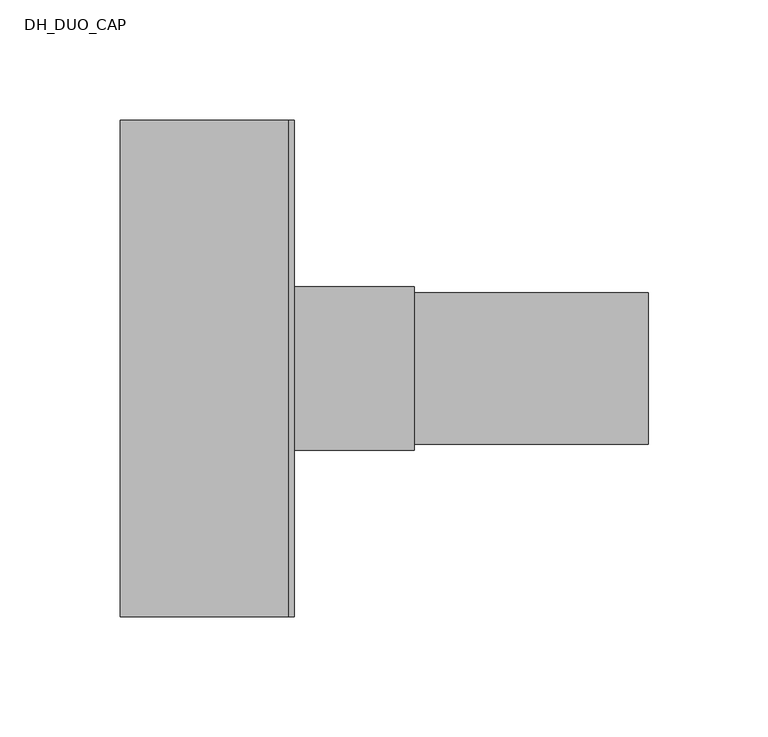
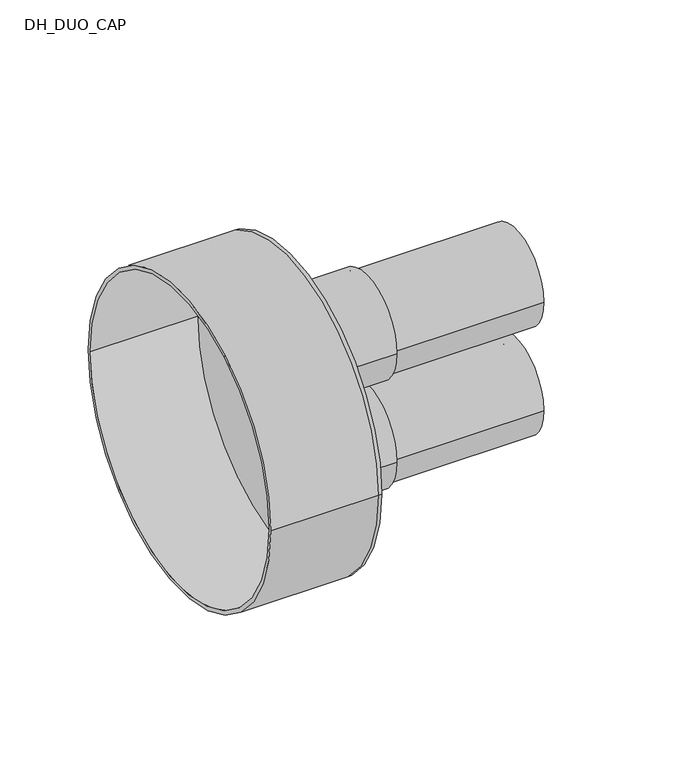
"""IFC4 building model written with IfcOpenShell, lengths in millimetres: pipe fitting geometry, DH_DUO_CAP : RAUTHERMEX DUO + 7.4 Heating - Rubber Cap."""

import ifcopenshell
import ifcopenshell.guid

model = None  # the IFC model being written
_history = None  # IfcOwnerHistory: only IFC2X3 demands one
_inside = {}  # id of a spatial element -> (the spatial element, [elements in it])
_under = {}  # id of a project, library or spatial element -> (it, [spatial elements below it])
_declared = {}  # id of a project -> (the project, [libraries it declares])
_typed = {}  # id of a type object -> (the type object, [elements of that type])
_made_of = {}  # id of a material, layer set ... -> (it, [elements and type objects made of it])


def new_model(schema):
    """Start an empty IFC model of exactly this schema.

    Asked for "IFC4X3", IfcOpenShell would pick the latest addendum, in which some entities
    have other attributes; the version numbers below select the first issue.
    IFC2X3 requires an IfcOwnerHistory on every rooted entity: one is made here for all.
    """
    global model, _history
    if schema == "IFC4X3":
        model = ifcopenshell.file(schema_version=(4, 3, 0, 0))
    else:
        model = ifcopenshell.file(schema=schema)
    _inside.clear()
    _under.clear()
    _declared.clear()
    _typed.clear()
    _made_of.clear()
    _history = None
    if model.schema == "IFC2X3":
        org = make("IfcOrganization", Name="unknown")
        user = make(
            "IfcPersonAndOrganization",
            ThePerson=make("IfcPerson", FamilyName="unknown"),
            TheOrganization=org,
        )
        app = make(
            "IfcApplication",
            ApplicationDeveloper=org,
            Version="unknown",
            ApplicationFullName="unknown",
            ApplicationIdentifier="unknown",
        )
        _history = make(
            "IfcOwnerHistory",
            OwningUser=user,
            OwningApplication=app,
            ChangeAction="ADDED",
            CreationDate=0,
        )
    return model


def make(cls, **values):
    """One entity of the class cls with the attributes given. An attribute that is None is left unset."""
    return model.create_entity(
        cls, **{name: value for name, value in values.items() if value is not None}
    )


def rooted(cls, **values):
    """An entity with a GlobalId (a new one), such as an element, a storey or a relation."""
    return make(cls, GlobalId=ifcopenshell.guid.new(), OwnerHistory=_history, **values)


def si_unit(unit_type, name, prefix=None):
    """IfcSIUnit, for example si_unit("LENGTHUNIT", "METRE", prefix="MILLI")."""
    return make("IfcSIUnit", UnitType=unit_type, Prefix=prefix, Name=name)


def assignment(units):
    """IfcUnitAssignment: the units of a project."""
    return None if units is None else make("IfcUnitAssignment", Units=units)


def point(xyz):
    """IfcCartesianPoint."""
    return None if xyz is None else make("IfcCartesianPoint", Coordinates=xyz)


def direction(xyz):
    """IfcDirection."""
    return None if xyz is None else make("IfcDirection", DirectionRatios=xyz)


def frame(location, z_axis=None, x_axis=None):
    """IfcAxis2Placement3D, a coordinate frame: its origin and axes. An axis left out is left unset."""
    return make(
        "IfcAxis2Placement3D",
        Location=point(location),
        Axis=direction(z_axis),
        RefDirection=direction(x_axis),
    )


def frame_2d(location, x_axis=None):
    """IfcAxis2Placement2D, a coordinate frame in the plane: its origin and x axis."""
    return make(
        "IfcAxis2Placement2D", Location=point(location), RefDirection=direction(x_axis)
    )


def origin():
    """The frame at (0, 0, 0) with its axes left unset."""
    return frame((0.0, 0.0, 0.0))


def place(relative_to, where):
    """IfcLocalPlacement: puts the frame where relative to a parent placement (None: the world)."""
    return make(
        "IfcLocalPlacement", PlacementRelTo=relative_to, RelativePlacement=where
    )


def context(
    kind, dimensions, precision=None, world=None, true_north=None, identifier=None
):
    """IfcGeometricRepresentationContext, for example the 3D "Model" context."""
    return make(
        "IfcGeometricRepresentationContext",
        ContextIdentifier=identifier,
        ContextType=kind,
        CoordinateSpaceDimension=dimensions,
        Precision=precision,
        WorldCoordinateSystem=world,
        TrueNorth=true_north,
    )


def project(units=None, contexts=None):
    """IfcProject with its units and contexts."""
    return rooted(
        "IfcProject",
        Name="project",
        RepresentationContexts=contexts,
        UnitsInContext=assignment(units),
    )


def spatial(cls, under=None, at=None, **own):
    """A site, building, storey or space (cls), placed at a placement, below another one or the project."""
    s = rooted(cls, ObjectPlacement=at, **own)
    if under is not None:
        _under.setdefault(under.id(), (under, []))[1].append(s)
    return s


def polyline(points):
    """IfcPolyline through the points."""
    return make("IfcPolyline", Points=[point(p) for p in points])


def circle_curve(where, radius):
    """IfcCircle in the frame where."""
    return make("IfcCircle", Position=where, Radius=radius)


def trimmed(basis, trim1, trim2, sense, master):
    """IfcTrimmedCurve: the piece of a basis curve between two trims."""
    return make(
        "IfcTrimmedCurve",
        BasisCurve=basis,
        Trim1=trim1,
        Trim2=trim2,
        SenseAgreement=sense,
        MasterRepresentation=master,
    )


def segment(curve, same_sense, transition):
    """IfcCompositeCurveSegment."""
    return make(
        "IfcCompositeCurveSegment",
        Transition=transition,
        SameSense=same_sense,
        ParentCurve=curve,
    )


def composite_curve(segments, self_intersect=None):
    """IfcCompositeCurve: segments joined end to end."""
    return make("IfcCompositeCurve", Segments=segments, SelfIntersect=self_intersect)


def outline(outer, holes=None, kind="AREA"):
    """IfcArbitraryClosedProfileDef: a profile drawn as a closed curve; with holes, ...WithVoids."""
    if holes is None:
        return make("IfcArbitraryClosedProfileDef", ProfileType=kind, OuterCurve=outer)
    return make(
        "IfcArbitraryProfileDefWithVoids",
        ProfileType=kind,
        OuterCurve=outer,
        InnerCurves=holes,
    )


def extrude(swept, where, along, depth):
    """IfcExtrudedAreaSolid: the profile swept, set in the frame where, extruded along a direction by depth."""
    return make(
        "IfcExtrudedAreaSolid",
        SweptArea=swept,
        Position=where,
        ExtrudedDirection=direction(along),
        Depth=depth,
    )


def shape(context_of_items, identifier, shape_type, items):
    """IfcShapeRepresentation: the items that make up one representation, for example the "Body"."""
    return make(
        "IfcShapeRepresentation",
        ContextOfItems=context_of_items,
        RepresentationIdentifier=identifier,
        RepresentationType=shape_type,
        Items=items,
    )


def source(mapping_origin, context_of_items, identifier, shape_type, items):
    """IfcRepresentationMap: a shape defined once, which mapped items show again and again."""
    return make(
        "IfcRepresentationMap",
        MappingOrigin=mapping_origin,
        MappedRepresentation=shape(context_of_items, identifier, shape_type, items),
    )


def transform(
    local_origin,
    x_axis=None,
    y_axis=None,
    z_axis=None,
    scale=None,
    scale2=None,
    scale3=None,
    uniform=True,
):
    """IfcCartesianTransformationOperator3D, or its non-uniform kind. x_axis, y_axis, z_axis: its Axis1, 2, 3."""
    if uniform:
        return make(
            "IfcCartesianTransformationOperator3D",
            Axis1=direction(x_axis),
            Axis2=direction(y_axis),
            LocalOrigin=point(local_origin),
            Scale=scale,
            Axis3=direction(z_axis),
        )
    return make(
        "IfcCartesianTransformationOperator3DnonUniform",
        Axis1=direction(x_axis),
        Axis2=direction(y_axis),
        LocalOrigin=point(local_origin),
        Scale=scale,
        Axis3=direction(z_axis),
        Scale2=scale2,
        Scale3=scale3,
    )


def mapped(mapping_source, mapping_target):
    """IfcMappedItem: shows the shape of a source again, moved by a transform."""
    return make(
        "IfcMappedItem", MappingSource=mapping_source, MappingTarget=mapping_target
    )


def made_of(thing, what):
    """Note that an element or type object is made of a material, layer set ...; save() writes the relation."""
    if what is not None:
        _made_of.setdefault(what.id(), (what, []))[1].append(thing)
    return thing


def element(
    cls,
    number,
    at=None,
    inside=None,
    cuts=None,
    type_object=None,
    material=None,
    context=None,
    identifier="Body",
    shape_type=None,
    held_by="IfcProductDefinitionShape",
    body=None,
    shapes=None,
    **own,
):
    """One element of the class cls, such as IfcWall. Its Tag is "e" and its number.

    at: its placement. inside: the storey or other place that contains it. cuts: it is an
    opening in that element (IfcRelVoidsElement). A single representation is given by context,
    identifier, shape_type and body (its items); several are given by shapes. held_by: the class
    of the entity that holds the representations. save() writes the other relations.
    """
    e = rooted(cls, Tag="e%d" % number, ObjectPlacement=at, **own)
    if body is not None:
        shapes = [shape(context, identifier, shape_type, body)]
    if shapes is not None:
        e.Representation = make(held_by, Representations=shapes)
    if inside is not None:
        _inside.setdefault(inside.id(), (inside, []))[1].append(e)
    if cuts is not None:
        rooted(
            "IfcRelVoidsElement", RelatingBuildingElement=cuts, RelatedOpeningElement=e
        )
    if type_object is not None:
        _typed.setdefault(type_object.id(), (type_object, []))[1].append(e)
    return made_of(e, material)


def aggregate(whole, parts):
    """IfcRelAggregates: a whole, such as a stair, and the parts it consists of."""
    return rooted("IfcRelAggregates", RelatingObject=whole, RelatedObjects=parts)


def save(model, path):
    """Write the relations noted so far, then the file.

    IfcRelAggregates (storeys below a building ...), IfcRelContainedInSpatialStructure (elements
    in a storey), IfcRelDefinesByType, IfcRelAssociatesMaterial and IfcRelDeclares: one each for
    every whole, place, type object, material and project.
    """
    for whole, parts in _under.values():
        aggregate(whole, parts)
    for where, things in _inside.values():
        rooted(
            "IfcRelContainedInSpatialStructure",
            RelatedElements=things,
            RelatingStructure=where,
        )
    for kind, things in _typed.values():
        rooted("IfcRelDefinesByType", RelatedObjects=things, RelatingType=kind)
    for what, things in _made_of.values():
        rooted("IfcRelAssociatesMaterial", RelatedObjects=things, RelatingMaterial=what)
    for by, libraries in _declared.values():
        rooted("IfcRelDeclares", RelatingContext=by, RelatedDefinitions=libraries)
    model.write(path)


def plane_surface(at):
    """IfcPlane: the flat surface through the origin of the frame at, square to its z axis."""
    return make("IfcPlane", Position=at)


def cylinder_surface(at, radius):
    """IfcCylindricalSurface: all points at the distance radius from the z axis of the frame at."""
    return make("IfcCylindricalSurface", Position=at, Radius=radius)


def revolved_surface(curve, axis_point, axis_direction):
    """IfcSurfaceOfRevolution: the curve turned about the line through axis_point along axis_direction."""
    return make(
        "IfcSurfaceOfRevolution",
        SweptCurve=make("IfcArbitraryOpenProfileDef", ProfileType="CURVE", Curve=curve),
        AxisPosition=make("IfcAxis1Placement", Location=point(axis_point), Axis=direction(axis_direction)),
    )


def advanced_brep(points, edges, surfaces, faces):
    """IfcAdvancedBrep: a solid bounded by faces that lie on surfaces and meet in shared edges.

    An edge is (start, end): straight between two places in points (the first is 0);
    or (start, end, curve); or (start, end, curve, False) where it runs against its curve.
    A face is (place in surfaces, loops), or (place, loops, False) where it looks against
    its surface's normal. A loop lists edges by number (the first is 1), with a minus sign
    where the edge is run from its end to its start. The first loop is the outer one.
    """
    corners = [point(p) for p in points]
    vertices = [make("IfcVertexPoint", VertexGeometry=c) for c in corners]
    made = []
    for start, end, *more in edges:
        made.append(
            make(
                "IfcEdgeCurve",
                EdgeStart=vertices[start],
                EdgeEnd=vertices[end],
                EdgeGeometry=more[0] if more else make("IfcPolyline", Points=[corners[start], corners[end]]),
                SameSense=more[1] if len(more) > 1 else True,
            )
        )
    hull = []
    for where, loops, *sense in faces:
        bounds = []
        for j, loop in enumerate(loops):
            ring = [make("IfcOrientedEdge", EdgeElement=made[abs(k) - 1], Orientation=k > 0) for k in loop]
            bounds.append(
                make(
                    "IfcFaceOuterBound" if j == 0 else "IfcFaceBound",
                    Bound=make("IfcEdgeLoop", EdgeList=ring),
                    Orientation=True,
                )
            )
        hull.append(make("IfcAdvancedFace", Bounds=bounds, FaceSurface=surfaces[where], SameSense=sense[0] if sense else True))
    return make("IfcAdvancedBrep", Outer=make("IfcClosedShell", CfsFaces=hull))


def dh_duo_cap_f27f4780(model_context):
    return source(origin(), model_context, "Body", "SolidModel", [
        extrude(outline(composite_curve([segment(trimmed(circle_curve(frame_2d((0.0, -37.5)), 31.5), [point((-31.5, -37.5))], [point((31.5, -37.5))], False, "CARTESIAN"), True, "CONTINUOUS"), segment(trimmed(circle_curve(frame_2d((0.0, -37.5)), 31.5), [point((31.5, -37.5))], [point((-31.5, -37.5))], False, "CARTESIAN"), True, "CONTINUOUS")], self_intersect=False), holes=[composite_curve([segment(trimmed(circle_curve(frame_2d((0.0, -37.5)), 22.9), [point((-22.9, -37.5))], [point((22.9, -37.5))], True, "CARTESIAN"), True, "CONTINUOUS"), segment(trimmed(circle_curve(frame_2d((0.0, -37.5)), 22.9), [point((22.9, -37.5))], [point((-22.9, -37.5))], True, "CARTESIAN"), True, "CONTINUOUS")], self_intersect=False)]), frame((0.0, 0.0, 0.0), z_axis=(1.0, 0.0, 0.0), x_axis=(0.0, 1.0, 0.0)), (0.0, 0.0, 1.0), 150.0),
        extrude(outline(composite_curve([segment(trimmed(circle_curve(frame_2d((0.0, 37.5)), 31.5), [point((-31.5, 37.5))], [point((31.5, 37.5))], False, "CARTESIAN"), True, "CONTINUOUS"), segment(trimmed(circle_curve(frame_2d((0.0, 37.5)), 31.5), [point((31.5, 37.5))], [point((-31.5, 37.5))], False, "CARTESIAN"), True, "CONTINUOUS")], self_intersect=False), holes=[composite_curve([segment(trimmed(circle_curve(frame_2d((0.0, 37.5)), 22.9), [point((-22.9, 37.5))], [point((22.9, 37.5))], True, "CARTESIAN"), True, "CONTINUOUS"), segment(trimmed(circle_curve(frame_2d((0.0, 37.5)), 22.9), [point((22.9, 37.5))], [point((-22.9, 37.5))], True, "CARTESIAN"), True, "CONTINUOUS")], self_intersect=False)]), frame((0.0, 0.0, 0.0), z_axis=(1.0, 0.0, 0.0), x_axis=(0.0, 1.0, 0.0)), (0.0, 0.0, 1.0), 150.0),
        advanced_brep(
        [(-70.0, -103.5, 0.0), (-70.0, 103.5, 0.0), (-70.0, -101.0, 0.0), (-70.0, 101.0, 0.0), (0.0, -101.0, 0.0), (0.0, 101.0, 0.0), (0.0, -103.5, 0.0), (0.0, 103.5, 0.0), (0.0, 31.5, 37.5), (0.0, -31.5, 37.5), (0.0, 31.5, -37.5), (0.0, -31.5, -37.5), (2.5, -103.5, 0.0), (2.5, 103.5, 0.0), (2.5, -31.5, 37.5), (2.5, 31.5, 37.5), (2.5, -31.5, -37.5), (2.5, 31.5, -37.5)],
        [
            (0, 1, circle_curve(frame((-70.0, 0.0, 0.0), z_axis=(-1.0, 0.0, 0.0), x_axis=(0.0, 1.0, 0.0)), 103.5)),
            (1, 0, circle_curve(frame((-70.0, 0.0, 0.0), z_axis=(-1.0, 0.0, 0.0), x_axis=(0.0, 1.0, 0.0)), 103.5)),
            (2, 3, circle_curve(frame((-70.0, 0.0, 0.0), z_axis=(1.0, 0.0, 0.0), x_axis=(0.0, 1.0, 0.0)), 101.0)),
            (3, 2, circle_curve(frame((-70.0, 0.0, 0.0), z_axis=(1.0, 0.0, 0.0), x_axis=(0.0, 1.0, 0.0)), 101.0)),
            (2, 4),
            (4, 5, circle_curve(frame((0.0, 0.0, 0.0), z_axis=(1.0, 0.0, 0.0), x_axis=(0.0, 1.0, 0.0)), 101.0)),
            (5, 3),
            (5, 4, circle_curve(frame((0.0, 0.0, 0.0), z_axis=(1.0, 0.0, 0.0), x_axis=(0.0, 1.0, 0.0)), 101.0)),
            (0, 6),
            (6, 7, circle_curve(frame((0.0, 0.0, 0.0), z_axis=(-1.0, 0.0, 0.0), x_axis=(0.0, 1.0, 0.0)), 103.5)),
            (7, 1),
            (7, 6, circle_curve(frame((0.0, 0.0, 0.0), z_axis=(-1.0, 0.0, 0.0), x_axis=(0.0, 1.0, 0.0)), 103.5)),
            (8, 9, circle_curve(frame((0.0, 0.0, 37.5), z_axis=(1.0, 0.0, 0.0), x_axis=(0.0, 1.0, 0.0)), 31.5)),
            (9, 8, circle_curve(frame((0.0, 0.0, 37.5), z_axis=(1.0, 0.0, 0.0), x_axis=(0.0, 1.0, 0.0)), 31.5)),
            (10, 11, circle_curve(frame((0.0, 0.0, -37.5), z_axis=(1.0, 0.0, 0.0), x_axis=(0.0, 1.0, 0.0)), 31.5)),
            (11, 10, circle_curve(frame((0.0, 0.0, -37.5), z_axis=(1.0, 0.0, 0.0), x_axis=(0.0, 1.0, 0.0)), 31.5)),
            (12, 13, circle_curve(frame((2.5, 0.0, 0.0), z_axis=(1.0, 0.0, 0.0), x_axis=(0.0, 1.0, 0.0)), 103.5)),
            (13, 12, circle_curve(frame((2.5, 0.0, 0.0), z_axis=(1.0, 0.0, 0.0), x_axis=(0.0, 1.0, 0.0)), 103.5)),
            (14, 15, circle_curve(frame((2.5, 0.0, 37.5), z_axis=(-1.0, 0.0, 0.0), x_axis=(0.0, 1.0, 0.0)), 31.5)),
            (15, 14, circle_curve(frame((2.5, 0.0, 37.5), z_axis=(-1.0, 0.0, 0.0), x_axis=(0.0, 1.0, 0.0)), 31.5)),
            (16, 17, circle_curve(frame((2.5, 0.0, -37.5), z_axis=(-1.0, 0.0, 0.0), x_axis=(0.0, 1.0, 0.0)), 31.5)),
            (17, 16, circle_curve(frame((2.5, 0.0, -37.5), z_axis=(-1.0, 0.0, 0.0), x_axis=(0.0, 1.0, 0.0)), 31.5)),
            (13, 7),
            (6, 12),
            (8, 15),
            (14, 9),
            (10, 17),
            (16, 11),
        ],
        [
            plane_surface(frame((-70.0, 0.0, 0.0), z_axis=(-1.0, 0.0, 0.0), x_axis=(0.0, 0.0, 1.0))),
            revolved_surface(polyline([(0.0, 101.0, 0.0), (-70.0, 101.0, 0.0)]), (-70.0, 0.0, 0.0), (1.0, 0.0, 0.0)),
            cylinder_surface(frame((-70.0, 0.0, 0.0), z_axis=(-1.0, 0.0, 0.0), x_axis=(0.0, 1.0, 0.0)), 103.5),
            plane_surface(frame((0.0, 0.0, 0.0), z_axis=(-1.0, 0.0, 0.0), x_axis=(0.0, 0.0, 1.0))),
            plane_surface(frame((2.5, 0.0, 0.0), z_axis=(1.0, 0.0, 0.0), x_axis=(0.0, 0.0, 1.0))),
            cylinder_surface(frame((0.0, 0.0, 0.0), z_axis=(-1.0, 0.0, 0.0), x_axis=(0.0, 1.0, 0.0)), 103.5),
            revolved_surface(polyline([(0.0, 31.5, 37.5), (2.5, 31.5, 37.5)]), (0.0, 0.0, 37.5), (-1.0, 0.0, 0.0)),
            revolved_surface(polyline([(0.0, 31.5, -37.5), (2.5, 31.5, -37.5)]), (0.0, 0.0, -37.5), (-1.0, 0.0, 0.0)),
        ],
        [
            (0, [[1, 2], [3, 4]]),
            (1, [[-3, 5, 6, 7]]),
            (1, [[-4, -7, 8, -5]]),
            (2, [[-1, 9, 10, 11]]),
            (2, [[-2, -11, 12, -9]]),
            (3, [[-6, -8], [13, 14], [15, 16]]),
            (4, [[17, 18], [19, 20], [21, 22]]),
            (5, [[-18, 23, -10, 24]]),
            (5, [[-17, -24, -12, -23]]),
            (6, [[25, -19, 26, -13]]),
            (6, [[-25, -14, -26, -20]]),
            (7, [[27, -21, 28, -15]]),
            (7, [[-27, -16, -28, -22]]),
        ],
    ),
        extrude(outline(composite_curve([segment(trimmed(circle_curve(frame_2d((0.0, -37.5)), 34.0), [point((-34.0, -37.5))], [point((34.0, -37.5))], False, "CARTESIAN"), True, "CONTINUOUS"), segment(trimmed(circle_curve(frame_2d((0.0, -37.5)), 34.0), [point((34.0, -37.5))], [point((-34.0, -37.5))], False, "CARTESIAN"), True, "CONTINUOUS")], self_intersect=False), holes=[composite_curve([segment(trimmed(circle_curve(frame_2d((0.0, -37.5)), 31.5), [point((-31.5, -37.5))], [point((31.5, -37.5))], True, "CARTESIAN"), True, "CONTINUOUS"), segment(trimmed(circle_curve(frame_2d((0.0, -37.5)), 31.5), [point((31.5, -37.5))], [point((-31.5, -37.5))], True, "CARTESIAN"), True, "CONTINUOUS")], self_intersect=False)]), frame((2.5, 0.0, 0.0), z_axis=(1.0, 0.0, 0.0), x_axis=(0.0, 1.0, 0.0)), (0.0, 0.0, 1.0), 50.0),
        extrude(outline(composite_curve([segment(trimmed(circle_curve(frame_2d((0.0, 37.5)), 34.0), [point((-34.0, 37.5))], [point((34.0, 37.5))], False, "CARTESIAN"), True, "CONTINUOUS"), segment(trimmed(circle_curve(frame_2d((0.0, 37.5)), 34.0), [point((34.0, 37.5))], [point((-34.0, 37.5))], False, "CARTESIAN"), True, "CONTINUOUS")], self_intersect=False), holes=[composite_curve([segment(trimmed(circle_curve(frame_2d((0.0, 37.5)), 31.5), [point((-31.5, 37.5))], [point((31.5, 37.5))], True, "CARTESIAN"), True, "CONTINUOUS"), segment(trimmed(circle_curve(frame_2d((0.0, 37.5)), 31.5), [point((31.5, 37.5))], [point((-31.5, 37.5))], True, "CARTESIAN"), True, "CONTINUOUS")], self_intersect=False)]), frame((2.5, 0.0, 0.0), z_axis=(1.0, 0.0, 0.0), x_axis=(0.0, 1.0, 0.0)), (0.0, 0.0, 1.0), 50.0),
    ])


if __name__ == "__main__":
    model = new_model("IFC4")
    model_context = context("Model", 3, world=origin())
    ifc_project = project(units=[si_unit("LENGTHUNIT", "METRE", prefix="MILLI")], contexts=[model_context])
    site = spatial("IfcSite", under=ifc_project)
    building = spatial("IfcBuilding", under=site)
    placement = place(None, origin())
    dh_duo_cap_shape = dh_duo_cap_f27f4780(model_context)
    element("IfcPipeFitting", 1, ObjectType="DH_DUO_CAP : RAUTHERMEX DUO + 7.4 Heating - Rubber Cap", at=placement, inside=building, context=model_context, shape_type="MappedRepresentation", body=[
        mapped(dh_duo_cap_shape, transform((0.0, 0.0, 0.0), x_axis=(1.0, 0.0, 0.0), y_axis=(0.0, 1.0, 0.0), z_axis=(0.0, 0.0, 1.0))),
    ])
    save(model, "model.ifc")
